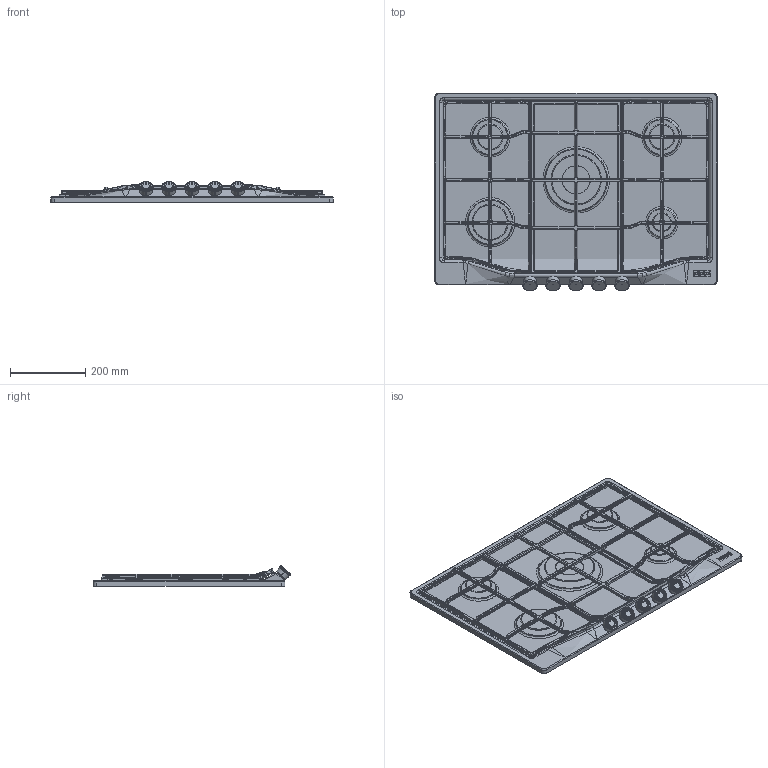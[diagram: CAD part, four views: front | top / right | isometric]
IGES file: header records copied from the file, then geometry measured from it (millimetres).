
Global section: file name: F:\_CONVERSIONE_CAD_2024_2025\03_3D kits new\01_Gas Hobs\106.0691.512_3D001_Hobs-Gas_Country_FCH-755-4G-TC-C\3D001_Hobs-Gas_Country_FCH-755-4G-TC-C.igs; native system: Rhinoceros ( Jan  9 2024 ); preprocessor: Trout Lake IGES 012 Jan  9 2024; date: 240206.083750; units: millimetre
Bounding box: 750 x 525.75 x 55.22 mm (x, y, z)
Surface area: 1121478.5 mm2 (no closed solid volume)
Topology: 0 solids, 0 shells, 12816 faces, 40520 edges, 40460 vertices
Faces by surface type: bspline 12816
